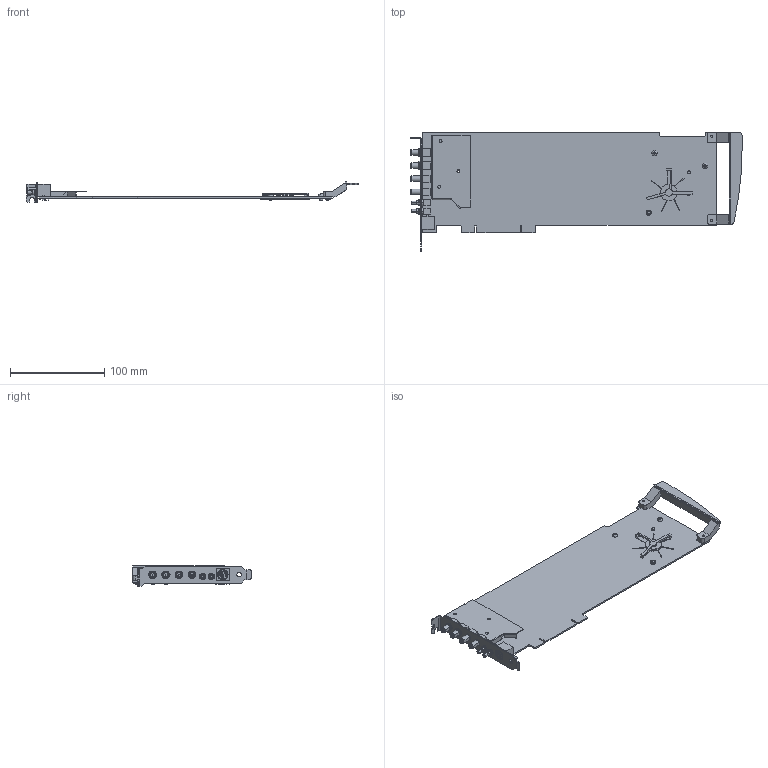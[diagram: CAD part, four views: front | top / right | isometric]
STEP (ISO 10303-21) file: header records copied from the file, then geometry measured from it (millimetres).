
FILE_DESCRIPTION((''),'2;1');
FILE_NAME('CU_PCI-5640R','2010-08-04T',('jjorden'),(''),'PRO/ENGINEER BY PARAMETRIC TECHNOLOGY CORPORATION, 2006510','PRO/ENGINEER BY PARAMETRIC TECHNOLOGY CORPORATION, 2006510','');
FILE_SCHEMA(('CONFIG_CONTROL_DESIGN'));
Length unit declared in the file: inch
Products named in the file (1): CU_PCI-5640R
Bounding box: 352.49 x 126.21 x 22.07 mm (x, y, z)
Volume: 69285.1 mm3; surface area: 88977.3 mm2
Topology: 6 solids, 6 shells, 1114 faces, 2787 edges, 1749 vertices
Faces by surface type: plane 614, cylinder 301, bspline 65, torus 64, cone 58, sphere 12
Entity records: 38585 total; most frequent: CARTESIAN_POINT 11798, ORIENTED_EDGE 5558, DIRECTION 5483, EDGE_CURVE 2779, AXIS2_PLACEMENT_3D 1892, VERTEX_POINT 1787, VECTOR 1699, LINE 1699
